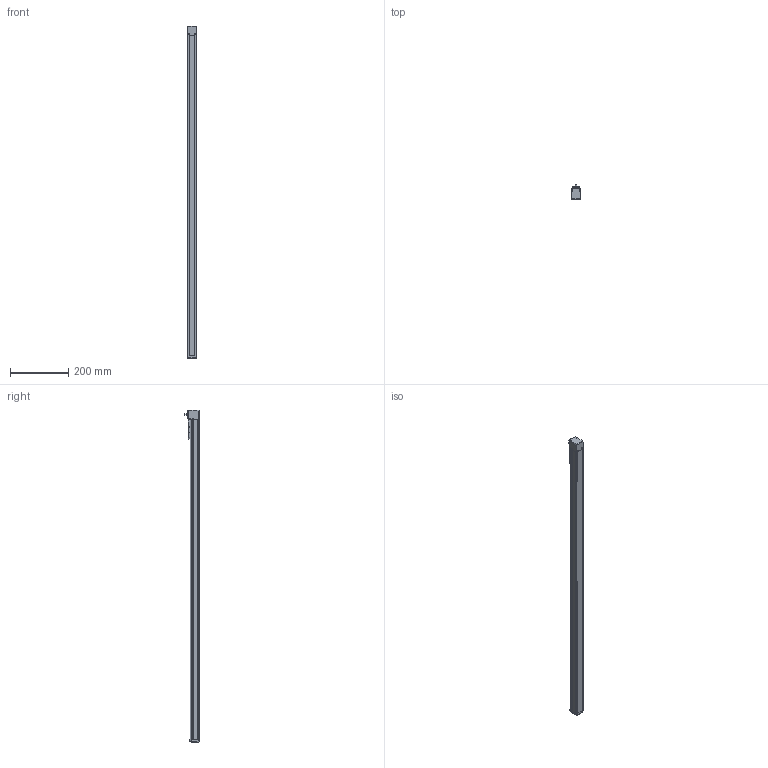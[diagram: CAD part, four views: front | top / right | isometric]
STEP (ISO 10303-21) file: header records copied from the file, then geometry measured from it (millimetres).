
FILE_DESCRIPTION(/* description */ ('STEP AP214'),/* implementation_level */ '2;1');
FILE_NAME(/* name */ 'MGTB 32 1000(0)',/* time_stamp */ '2023-04-17T13:35:04+02:00',/* author */ ('License CC BY-ND 4.0'),/* organization */ ('CADENAS'),/* preprocessor_version */ 'ST-DEVELOPER v19.3',/* originating_system */ 'PARTsolutions',/* authorisation */ ' ');
FILE_SCHEMA (('AUTOMOTIVE_DESIGN {1 0 10303 214 3 1 1}'));
Length unit declared in the file: millimetre
Products named in the file (6): MGTB 32 1000(0); MGTB 32 1000_protection_strip; MGTB 32_carriage; MGTB 32_end_block; MGTB 32 1000_profile; MGTB 32_drive_block
Assembly tree (5 placements, depth 2):
  MGTB 32 1000(0)
    MGTB 32 1000_protection_strip
    MGTB 32_carriage
    MGTB 32_end_block
    MGTB 32 1000_profile
    MGTB 32_drive_block
Bounding box: 32 x 51.75 x 1144.75 mm (x, y, z)
Volume: 1079043.9 mm3; surface area: 256852.1 mm2
Topology: 5 solids, 5 shells, 664 faces, 1755 edges, 1129 vertices
Faces by surface type: plane 316, cylinder 171, cone 90, bspline 60, torus 25, sphere 2
Full cylindrical faces by diameter (mm): 1.155 x1, 1.567 x4, 1.755 x4, 1.8 x2, 2 x2, 2.3 x4, 2.459 x8, 2.46 x4, 2.5 x11, 3 x1, 3.8 x4, 4.5 x4, 5 x3, 7 x1, 7.5 x1, 9.6 x1, 19.5 x1, 25 x2
Entity records: 24513 total; most frequent: CARTESIAN_POINT 4239, DIRECTION 3359, ORIENTED_EDGE 3170, EDGE_CURVE 1585, AXIS2_PLACEMENT_3D 1204, VERTEX_POINT 1116, LINE 951, VECTOR 951
